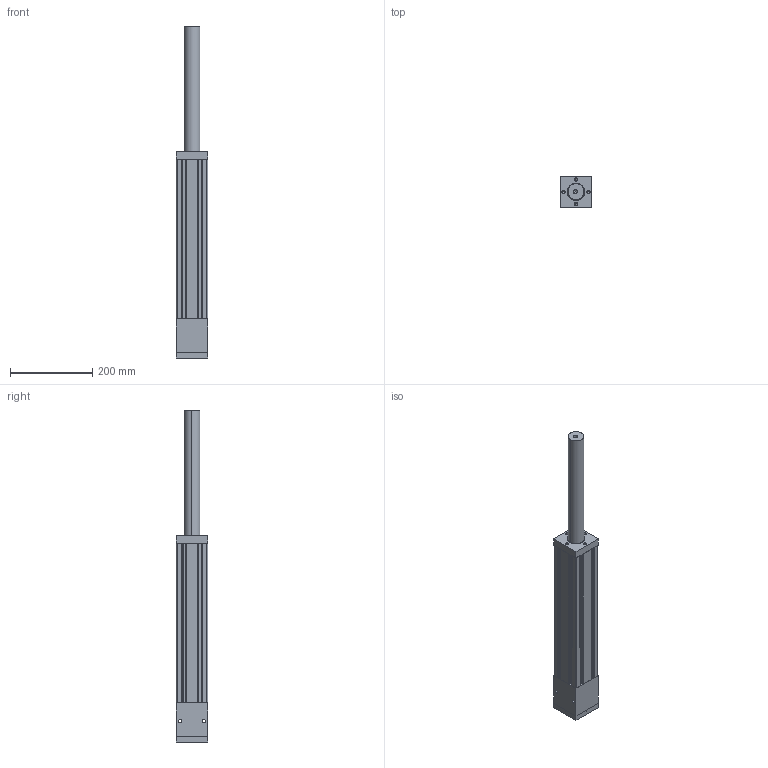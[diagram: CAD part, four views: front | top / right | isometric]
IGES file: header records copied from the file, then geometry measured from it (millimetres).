
Start section: SolidWorks IGES file using analytic representation for surfaces
Global section: file name: C:\Users\render\Documents\CAD Files\Integrated-Actuators\SS-Series\SS-12\SS12.IGS; native system: SolidWorks 2009; preprocessor: SolidWorks 2009; author: render; date: 100602.150000; units: millimetre
Bounding box: 76.2 x 76.2 x 806.45 mm (x, y, z)
Surface area: 442228 mm2 (no closed solid volume)
Topology: 0 solids, 0 shells, 309 faces, 5024 edges, 5006 vertices
Faces by surface type: revolution 194, bspline 115
